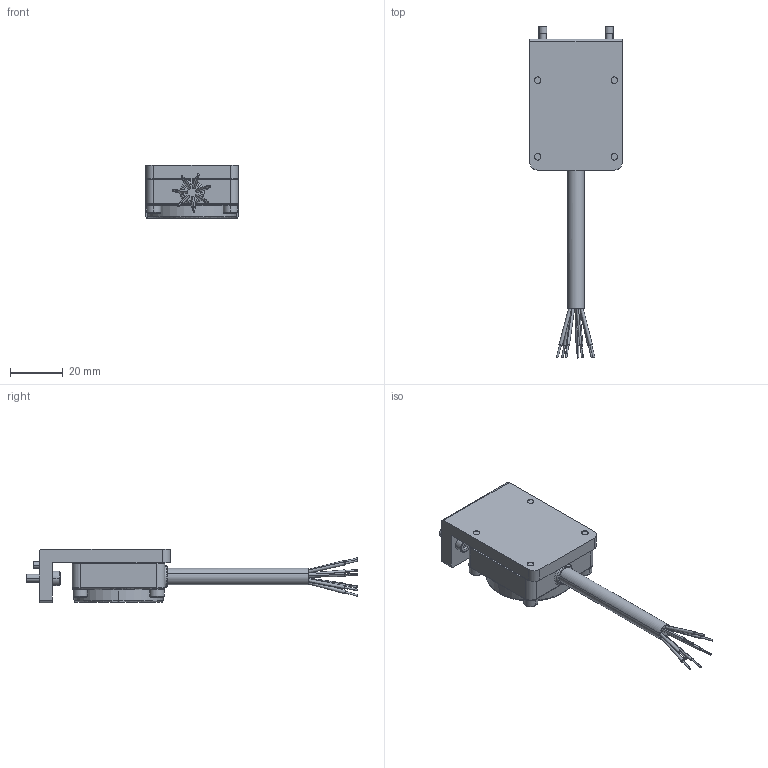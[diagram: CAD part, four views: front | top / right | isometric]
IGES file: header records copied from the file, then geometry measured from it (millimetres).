
Start section: 3D InterOp IGES (v. 2022 1.0.0), Spatial Corp. Copyright (c) 1999-2020.
Global section: file name: KHF-12RS-NN4,NP4_ver1.igs; native system: Spatial Corp.; preprocessor: 3D InterOp GENERIC/IGES 3.0; author: Noname; organization: Noname; date: 20260427.130845; units: millimetre
Bounding box: 35 x 125.57 x 20.2 mm (x, y, z)
Surface area: 12860.6 mm2 (no closed solid volume)
Topology: 0 solids, 0 shells, 335 faces, 1586 edges, 1582 vertices
Faces by surface type: revolution 206, extrusion 116, bspline 13
